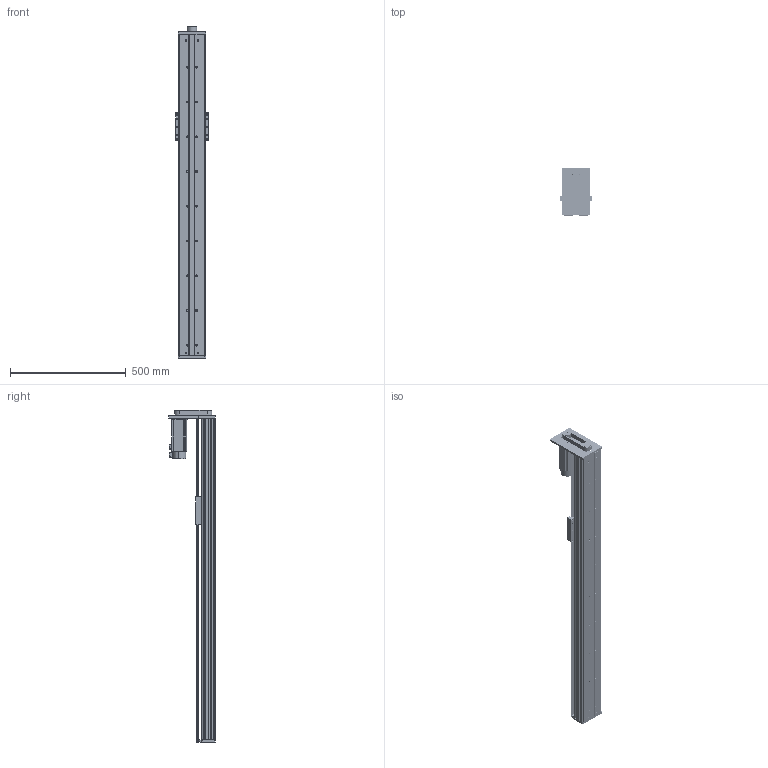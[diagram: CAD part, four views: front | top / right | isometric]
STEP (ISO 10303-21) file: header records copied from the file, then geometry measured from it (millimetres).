
FILE_DESCRIPTION (( 'STEP AP214' ), '1' );
FILE_NAME ('CF120-10-C-P1350-FWS.STEP', '2016-04-24T05:10:48', ( '' ), ( '' ), 'SwSTEP 2.0', 'SolidWorks 2015', '' );
FILE_SCHEMA (( 'AUTOMOTIVE_DESIGN' ));
Length unit declared in the file: millimetre
Products named in the file (18): EGH-15-CABZnew; CF120-丝杆同步带伺服60上折电机板; CF120蹟譫釱; CF120-10-C-P1350-FWS; 20-5M-20-囀噤10; CF120-P1350裔啣; EK12+EF12萇儂酘耜蚾佪裝-P600; EGR15-P600-880; 肮祭湍HTD5M-20; CF120賑雄啣; EF12; CF120-P1350丝杆同步带铝型材; EK12; 60机座海德伺服电机; 粣創結啣; CF120蜊輛耜啣; SFU1605-3蹟譫
Assembly tree (22 placements, depth 3):
  CF120-10-C-P1350-FWS
    EGH-15-CABZnew  x4
    SFU1605-3蹟譫
    EK12
      EK12
      粣創結啣
    EF12
    CF120賑雄啣
    CF120蹟譫釱
    EGR15-P600-880  x2
    EK12+EF12萇儂酘耜蚾佪裝-P600
    CF120-P1350丝杆同步带铝型材
    CF120-P1350裔啣
    CF120蜊輛耜啣
    20-5M-20-囀噤10  x2
    60机座海德伺服电机
    肮祭湍HTD5M-20
    CF120-丝杆同步带伺服60上折电机板
Bounding box: 140 x 201 x 1433 mm (x, y, z)
Volume: 5581068.9 mm3; surface area: 1715974.1 mm2
Topology: 17 solids, 69 shells, 7514 faces, 28138 edges, 19328 vertices
Faces by surface type: plane 3537, bspline 2351, cylinder 1236, cone 150, torus 136, sphere 104
Entity records: 157881 total; most frequent: CARTESIAN_POINT 61455, ORIENTED_EDGE 16624, DIRECTION 13022, EDGE_CURVE 9436, VERTEX_POINT 6423, LINE 5334, VECTOR 5334, AXIS2_PLACEMENT_3D 3844
